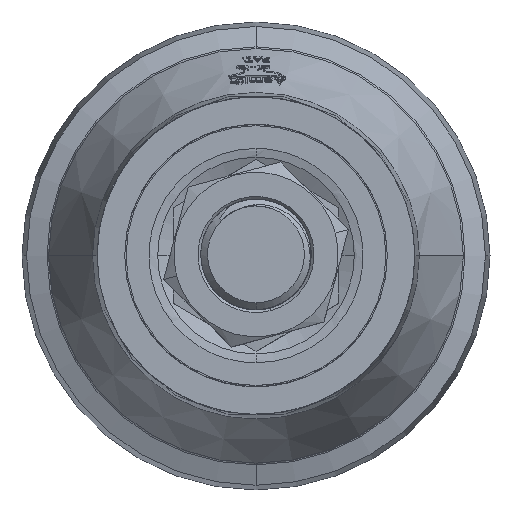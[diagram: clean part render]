
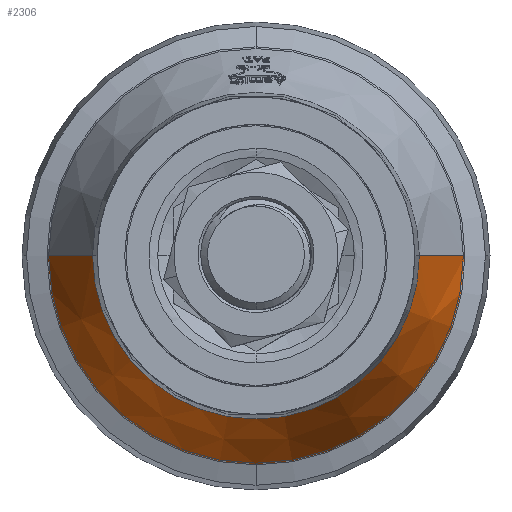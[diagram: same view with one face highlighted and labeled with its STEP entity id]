
A CAD part, top view. The second image highlights one B-rep face of the part: STEP entity #2306.
In plain terms, the highlighted conical face has half-angle 25 degrees and reference radius 23.629 mm.
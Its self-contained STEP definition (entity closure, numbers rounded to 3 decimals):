
#190 = CARTESIAN_POINT ( 'NONE',  ( -23.629, 0., 23.5 ) ) ;
#2292 = EDGE_CURVE ( 'NONE', #32513, #27392, #16254, .T. ) ;
#2306 = ADVANCED_FACE ( 'NONE', ( #31295 ), #7829, .T. ) ;
#2563 = AXIS2_PLACEMENT_3D ( 'NONE', #24124, #7189, #32555 ) ;
#3275 = CARTESIAN_POINT ( 'NONE',  ( 0., 0., 9.324 ) ) ;
#4249 = CARTESIAN_POINT ( 'NONE',  ( -26.934, 0., 16.412 ) ) ;
#4368 = DIRECTION ( 'NONE',  ( -0.423, 0., -0.906 ) ) ;
#5104 = AXIS2_PLACEMENT_3D ( 'NONE', #9376, #29207, #12217 ) ;
#5199 = ORIENTED_EDGE ( 'NONE', *, *, #2292, .F. ) ;
#5888 = CARTESIAN_POINT ( 'NONE',  ( 26.934, 0., 16.412 ) ) ;
#6107 = DIRECTION ( 'NONE',  ( -1., 0., 0. ) ) ;
#6784 = ORIENTED_EDGE ( 'NONE', *, *, #25437, .F. ) ;
#7189 = DIRECTION ( 'NONE',  ( 0., 0., -1. ) ) ;
#7303 = CIRCLE ( 'NONE', #33480, 30.24 ) ;
#7829 = CONICAL_SURFACE ( 'NONE', #2563, 23.629, 0.436 ) ;
#8699 = VECTOR ( 'NONE', #4368, 1000. ) ;
#9376 = CARTESIAN_POINT ( 'NONE',  ( 0., 0., 23.5 ) ) ;
#10845 = EDGE_LOOP ( 'NONE', ( #6784, #29360, #5199, #17864 ) ) ;
#12217 = DIRECTION ( 'NONE',  ( -1., 0., 0. ) ) ;
#13010 = VERTEX_POINT ( 'NONE', #15595 ) ;
#14303 = CIRCLE ( 'NONE', #5104, 23.629 ) ;
#14548 = CARTESIAN_POINT ( 'NONE',  ( -30.24, 0., 9.324 ) ) ;
#15595 = CARTESIAN_POINT ( 'NONE',  ( 23.629, 0., 23.5 ) ) ;
#16254 = LINE ( 'NONE', #4249, #8699 ) ;
#17494 = CARTESIAN_POINT ( 'NONE',  ( 30.24, 0., 9.324 ) ) ;
#17611 = EDGE_CURVE ( 'NONE', #27392, #27961, #7303, .T. ) ;
#17864 = ORIENTED_EDGE ( 'NONE', *, *, #20299, .F. ) ;
#18655 = LINE ( 'NONE', #5888, #32812 ) ;
#20299 = EDGE_CURVE ( 'NONE', #13010, #32513, #14303, .T. ) ;
#23037 = DIRECTION ( 'NONE',  ( 0., 0., -1. ) ) ;
#24124 = CARTESIAN_POINT ( 'NONE',  ( 0., 0., 23.5 ) ) ;
#25437 = EDGE_CURVE ( 'NONE', #27961, #13010, #18655, .T. ) ;
#27392 = VERTEX_POINT ( 'NONE', #14548 ) ;
#27961 = VERTEX_POINT ( 'NONE', #17494 ) ;
#28521 = DIRECTION ( 'NONE',  ( -0.423, 0., 0.906 ) ) ;
#29207 = DIRECTION ( 'NONE',  ( 0., 0., 1. ) ) ;
#29360 = ORIENTED_EDGE ( 'NONE', *, *, #17611, .F. ) ;
#31295 = FACE_OUTER_BOUND ( 'NONE', #10845, .T. ) ;
#32513 = VERTEX_POINT ( 'NONE', #190 ) ;
#32555 = DIRECTION ( 'NONE',  ( -1., 0., 0. ) ) ;
#32812 = VECTOR ( 'NONE', #28521, 1000. ) ;
#33480 = AXIS2_PLACEMENT_3D ( 'NONE', #3275, #23037, #6107 ) ;
